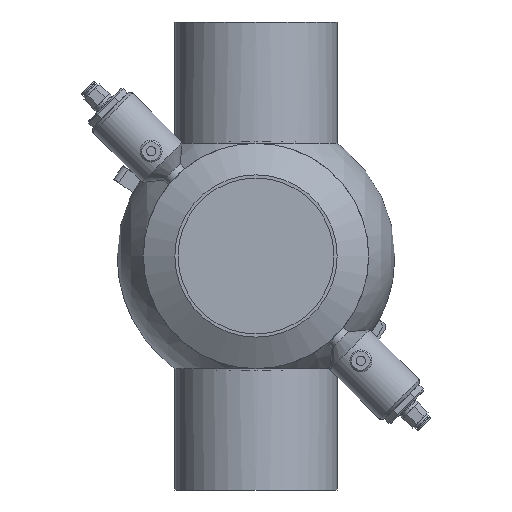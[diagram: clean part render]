
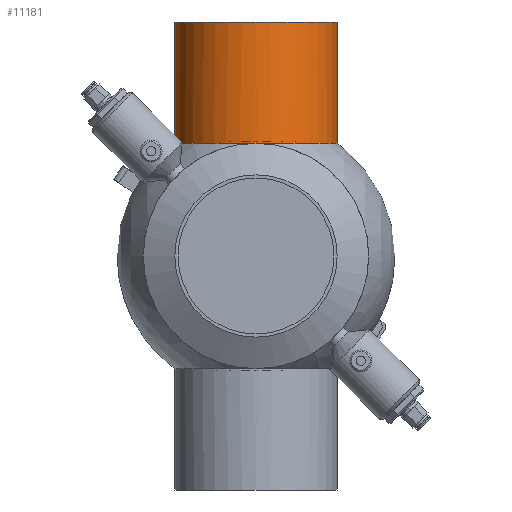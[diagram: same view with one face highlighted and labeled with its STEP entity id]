
A CAD part, front view. The second image highlights one B-rep face of the part: STEP entity #11181.
In plain terms, the highlighted cylindrical face has radius 52 mm (diameter 104 mm), a full revolution.
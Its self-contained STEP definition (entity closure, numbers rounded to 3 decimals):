
#1 = CARTESIAN_POINT ( 'NONE',  ( 72.229, 0., 0. ) ) ;
#357 = DIRECTION ( 'NONE',  ( 1., 0., 0. ) ) ;
#2286 = ORIENTED_EDGE ( 'NONE', *, *, #21206, .T. ) ;
#3343 = CARTESIAN_POINT ( 'NONE',  ( 72.25, 52., -0.587 ) ) ;
#3575 = CARTESIAN_POINT ( 'NONE',  ( 0., 0., 0. ) ) ;
#3581 = DIRECTION ( 'NONE',  ( 0., 0., 1. ) ) ;
#3739 = VERTEX_POINT ( 'NONE', #17793 ) ;
#4017 = FACE_OUTER_BOUND ( 'NONE', #7447, .T. ) ;
#4171 = CARTESIAN_POINT ( 'NONE',  ( 150., 0., 0. ) ) ;
#4257 = CYLINDRICAL_SURFACE ( 'NONE', #9233, 52. ) ;
#4299 = DIRECTION ( 'NONE',  ( -1., 0., 0. ) ) ;
#4901 = AXIS2_PLACEMENT_3D ( 'NONE', #4171, #4299, #14349 ) ;
#5538 = CARTESIAN_POINT ( 'NONE',  ( 72.229, 51.971, -1.75 ) ) ;
#6000 = AXIS2_PLACEMENT_3D ( 'NONE', #1, #14743, #20899 ) ;
#6054 = CIRCLE ( 'NONE', #4901, 52. ) ;
#6069 = EDGE_CURVE ( 'NONE', #9254, #20973, #19808, .T. ) ;
#6327 = FACE_OUTER_BOUND ( 'NONE', #19785, .T. ) ;
#6632 = B_SPLINE_CURVE_WITH_KNOTS ( 'NONE', 3,
 ( #19803, #15939, #23329, #14133, #17857 ),
 .UNSPECIFIED., .F., .F.,
 ( 4, 1, 4 ),
 ( 0.083, 0.085, 0.086 ),
 .UNSPECIFIED. ) ;
#6844 = CARTESIAN_POINT ( 'NONE',  ( 72.229, 51.971, 1.75 ) ) ;
#7301 = DIRECTION ( 'NONE',  ( 0., 0., 1. ) ) ;
#7447 = EDGE_LOOP ( 'NONE', ( #17039, #2286, #14544, #18554 ) ) ;
#7564 = CARTESIAN_POINT ( 'NONE',  ( 72.229, 51.971, 1.75 ) ) ;
#8917 = ORIENTED_EDGE ( 'NONE', *, *, #23674, .T. ) ;
#9233 = AXIS2_PLACEMENT_3D ( 'NONE', #3575, #15059, #7301 ) ;
#9254 = VERTEX_POINT ( 'NONE', #17198 ) ;
#11181 = ADVANCED_FACE ( 'NONE', ( #4017, #6327 ), #4257, .T. ) ;
#12158 = CIRCLE ( 'NONE', #22972, 52. ) ;
#13198 = VERTEX_POINT ( 'NONE', #18309 ) ;
#14133 = CARTESIAN_POINT ( 'NONE',  ( 72.243, -51.99, -1.169 ) ) ;
#14263 = CARTESIAN_POINT ( 'NONE',  ( 72.229, 51.971, -1.75 ) ) ;
#14349 = DIRECTION ( 'NONE',  ( 0., 0., 1. ) ) ;
#14544 = ORIENTED_EDGE ( 'NONE', *, *, #6069, .T. ) ;
#14743 = DIRECTION ( 'NONE',  ( 1., 0., 0. ) ) ;
#15059 = DIRECTION ( 'NONE',  ( -1., 0., 0. ) ) ;
#15939 = CARTESIAN_POINT ( 'NONE',  ( 72.243, -51.99, 1.164 ) ) ;
#15952 = CARTESIAN_POINT ( 'NONE',  ( 72.243, 51.99, -1.17 ) ) ;
#16786 = CARTESIAN_POINT ( 'NONE',  ( 72.229, 0., 0. ) ) ;
#17039 = ORIENTED_EDGE ( 'NONE', *, *, #23583, .T. ) ;
#17198 = CARTESIAN_POINT ( 'NONE',  ( 72.229, -51.971, -1.75 ) ) ;
#17793 = CARTESIAN_POINT ( 'NONE',  ( 150., 0., 52. ) ) ;
#17857 = CARTESIAN_POINT ( 'NONE',  ( 72.229, -51.971, -1.75 ) ) ;
#18087 = EDGE_CURVE ( 'NONE', #20973, #20792, #23732, .T. ) ;
#18309 = CARTESIAN_POINT ( 'NONE',  ( 72.229, -51.971, 1.75 ) ) ;
#18554 = ORIENTED_EDGE ( 'NONE', *, *, #18087, .T. ) ;
#19785 = EDGE_LOOP ( 'NONE', ( #8917 ) ) ;
#19803 = CARTESIAN_POINT ( 'NONE',  ( 72.229, -51.971, 1.75 ) ) ;
#19808 = CIRCLE ( 'NONE', #6000, 52. ) ;
#20792 = VERTEX_POINT ( 'NONE', #7564 ) ;
#20899 = DIRECTION ( 'NONE',  ( 0., 0., 1. ) ) ;
#20973 = VERTEX_POINT ( 'NONE', #5538 ) ;
#21206 = EDGE_CURVE ( 'NONE', #13198, #9254, #6632, .T. ) ;
#21757 = CARTESIAN_POINT ( 'NONE',  ( 72.243, 51.99, 1.168 ) ) ;
#22972 = AXIS2_PLACEMENT_3D ( 'NONE', #16786, #357, #3581 ) ;
#23329 = CARTESIAN_POINT ( 'NONE',  ( 72.257, -52.01, -0.005 ) ) ;
#23342 = CARTESIAN_POINT ( 'NONE',  ( 72.25, 52., 0.584 ) ) ;
#23583 = EDGE_CURVE ( 'NONE', #20792, #13198, #12158, .T. ) ;
#23674 = EDGE_CURVE ( 'NONE', #3739, #3739, #6054, .T. ) ;
#23732 = B_SPLINE_CURVE_WITH_KNOTS ( 'NONE', 3,
 ( #14263, #15952, #3343, #23342, #21757, #6844 ),
 .UNSPECIFIED., .F., .F.,
 ( 4, 2, 4 ),
 ( 0.252, 0.254, 0.255 ),
 .UNSPECIFIED. ) ;
